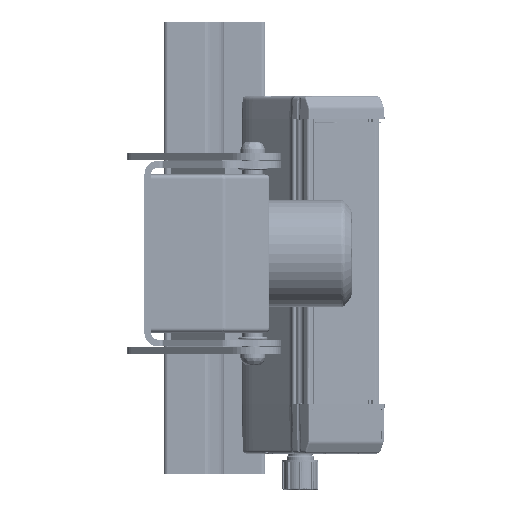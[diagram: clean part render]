
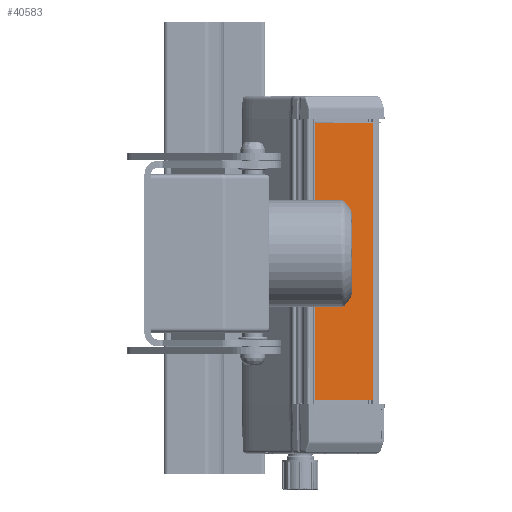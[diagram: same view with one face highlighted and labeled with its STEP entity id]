
A CAD part, left-side view. The second image highlights one B-rep face of the part: STEP entity #40583.
In plain terms, the highlighted planar face has unit normal (-0.707, -0.707, 0) as drawn and (0, 1, 0) by its records, which use the part's own axes.
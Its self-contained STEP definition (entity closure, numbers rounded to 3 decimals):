
#2741 = VERTEX_POINT ( 'NONE', #113942 ) ;
#3903 = CARTESIAN_POINT ( 'NONE',  ( 0., 20.6, 124.3 ) ) ;
#7562 = LINE ( 'NONE', #151048, #136979 ) ;
#21173 = DIRECTION ( 'NONE',  ( 0., 0., 1. ) ) ;
#26984 = LINE ( 'NONE', #3903, #71136 ) ;
#37049 = PLANE ( 'NONE',  #304501 ) ;
#37066 = CARTESIAN_POINT ( 'NONE',  ( -17.907, 20.6, 1.7 ) ) ;
#37418 = CARTESIAN_POINT ( 'NONE',  ( 17.907, 20.6, 1.7 ) ) ;
#40583 = ADVANCED_FACE ( 'NONE', ( #81885 ), #37049, .T. ) ;
#41138 = EDGE_LOOP ( 'NONE', ( #104818, #279022, #42821, #121704 ) ) ;
#41962 = DIRECTION ( 'NONE',  ( 0., 0., -1. ) ) ;
#42821 = ORIENTED_EDGE ( 'NONE', *, *, #77902, .F. ) ;
#71136 = VECTOR ( 'NONE', #216861, 1000. ) ;
#77902 = EDGE_CURVE ( 'NONE', #173716, #2741, #26984, .T. ) ;
#79131 = DIRECTION ( 'NONE',  ( 0., 0., 1. ) ) ;
#81885 = FACE_OUTER_BOUND ( 'NONE', #41138, .T. ) ;
#104818 = ORIENTED_EDGE ( 'NONE', *, *, #169855, .T. ) ;
#109654 = LINE ( 'NONE', #283472, #175624 ) ;
#113942 = CARTESIAN_POINT ( 'NONE',  ( -17.907, 20.6, 124.3 ) ) ;
#121704 = ORIENTED_EDGE ( 'NONE', *, *, #275289, .T. ) ;
#121754 = DIRECTION ( 'NONE',  ( -1., 0., 0. ) ) ;
#122234 = VERTEX_POINT ( 'NONE', #160433 ) ;
#136979 = VECTOR ( 'NONE', #121754, 1000. ) ;
#137291 = CARTESIAN_POINT ( 'NONE',  ( 0., 20.6, 1.7 ) ) ;
#151048 = CARTESIAN_POINT ( 'NONE',  ( 0., 20.6, 1.7 ) ) ;
#160433 = CARTESIAN_POINT ( 'NONE',  ( 17.907, 20.6, 1.7 ) ) ;
#169855 = EDGE_CURVE ( 'NONE', #122234, #170858, #7562, .T. ) ;
#170858 = VERTEX_POINT ( 'NONE', #37066 ) ;
#173716 = VERTEX_POINT ( 'NONE', #194439 ) ;
#175624 = VECTOR ( 'NONE', #21173, 1000. ) ;
#194439 = CARTESIAN_POINT ( 'NONE',  ( 17.907, 20.6, 124.3 ) ) ;
#216861 = DIRECTION ( 'NONE',  ( -1., 0., 0. ) ) ;
#217369 = VECTOR ( 'NONE', #41962, 1000. ) ;
#254600 = DIRECTION ( 'NONE',  ( 0., 1., 0. ) ) ;
#259320 = EDGE_CURVE ( 'NONE', #170858, #2741, #109654, .T. ) ;
#275289 = EDGE_CURVE ( 'NONE', #173716, #122234, #278126, .T. ) ;
#278126 = LINE ( 'NONE', #37418, #217369 ) ;
#279022 = ORIENTED_EDGE ( 'NONE', *, *, #259320, .T. ) ;
#283472 = CARTESIAN_POINT ( 'NONE',  ( -17.907, 20.6, 1.7 ) ) ;
#304501 = AXIS2_PLACEMENT_3D ( 'NONE', #137291, #254600, #79131 ) ;
